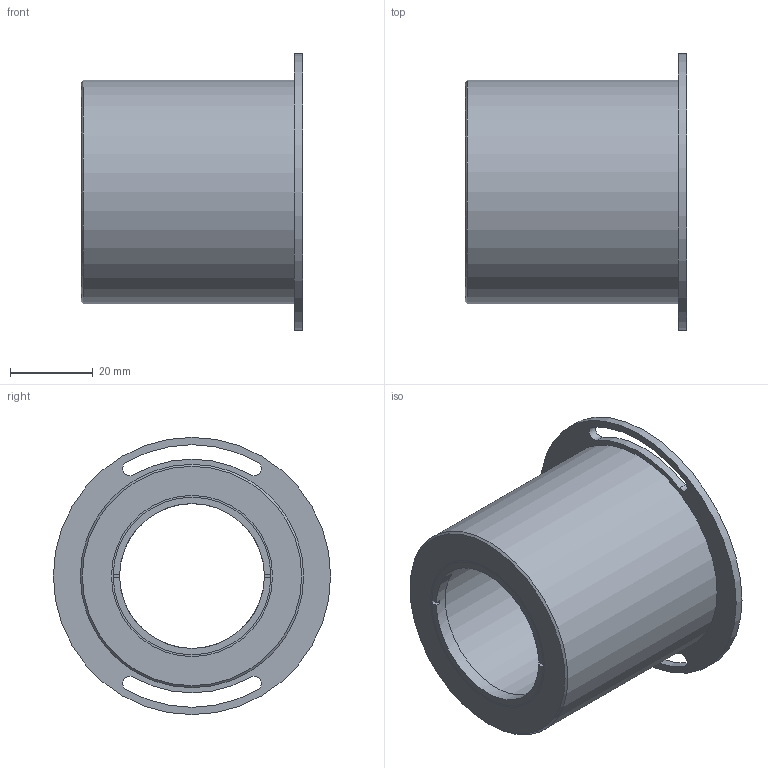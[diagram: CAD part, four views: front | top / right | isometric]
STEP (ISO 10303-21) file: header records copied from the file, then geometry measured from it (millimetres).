
FILE_DESCRIPTION(/* description */ (''),/* implementation_level */ '2;1');
FILE_NAME(/* name */ 'Y:\3DDATA\2_OpticalHard\01_国内製品\2_Holders\GTPC\GTPC-ADP\GTPC-ADP38-49\中間ﾌｧｲﾙ\GTPC-ADP38-49.stp',/* time_stamp */ '2014-07-09T19:33:37+09:00',/* author */ ('t.mukai'),/* organization */ (''),/* preprocessor_version */ 'ST-DEVELOPER v15.2',/* originating_system */ 'Autodesk Inventor 2014',/* authorisation */ '');
FILE_SCHEMA (('AUTOMOTIVE_DESIGN { 1 0 10303 214 3 1 1 }'));
Length unit declared in the file: millimetre
Products named in the file (1): GTPCADP3849-M02-13001-ST01
Bounding box: 53.5 x 67 x 67 mm (x, y, z)
Volume: 64212.3 mm3; surface area: 20779.9 mm2
Topology: 1 solids, 1 shells, 31 faces, 75 edges, 49 vertices
Faces by surface type: plane 15, cylinder 15, cone 1
Full cylindrical faces by diameter (mm): 35 x2, 38.1 x1, 54 x1, 67 x1
Entity records: 912 total; most frequent: DIRECTION 170, CARTESIAN_POINT 146, ORIENTED_EDGE 134, AXIS2_PLACEMENT_3D 71, EDGE_CURVE 67, VERTEX_POINT 47, EDGE_LOOP 46, CIRCLE 39
